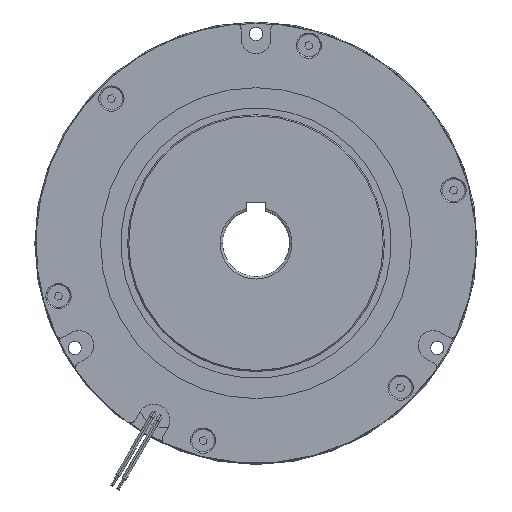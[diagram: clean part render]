
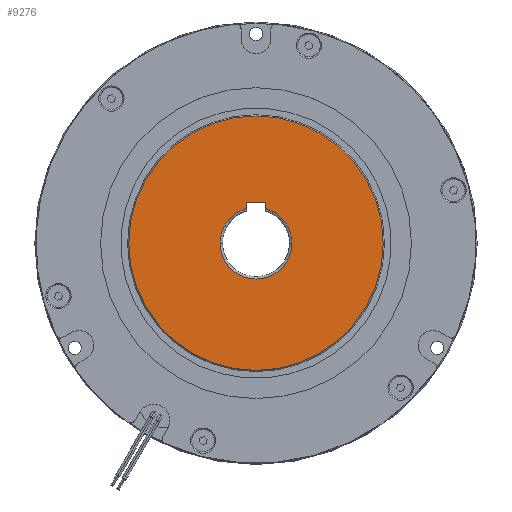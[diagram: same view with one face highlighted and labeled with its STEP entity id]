
A CAD part, top view. The second image highlights one B-rep face of the part: STEP entity #9276.
In plain terms, the highlighted planar face has unit normal (0, 0, 1).
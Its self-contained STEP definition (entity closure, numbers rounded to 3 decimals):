
#83 = VERTEX_POINT ( 'NONE', #8573 ) ;
#84 = VERTEX_POINT ( 'NONE', #8568 ) ;
#424 = CARTESIAN_POINT ( 'NONE',  ( 0., 0., 31.6 ) ) ;
#425 = DIRECTION ( 'NONE',  ( 0., 0., 1. ) ) ;
#426 = DIRECTION ( 'NONE',  ( 1., 0., 0. ) ) ;
#491 = CARTESIAN_POINT ( 'NONE',  ( 0., 0., 31.6 ) ) ;
#492 = DIRECTION ( 'NONE',  ( 0., 0., -1. ) ) ;
#493 = DIRECTION ( 'NONE',  ( 1., 0., 0. ) ) ;
#510 = CARTESIAN_POINT ( 'NONE',  ( -4., 17., 31.6 ) ) ;
#514 = CARTESIAN_POINT ( 'NONE',  ( 4., 17., 31.6 ) ) ;
#515 = DIRECTION ( 'NONE',  ( 0., 1., 0. ) ) ;
#518 = DIRECTION ( 'NONE',  ( -1., 0., 0. ) ) ;
#527 = CARTESIAN_POINT ( 'NONE',  ( -4., 17., 31.6 ) ) ;
#528 = DIRECTION ( 'NONE',  ( 0., -1., 0. ) ) ;
#859 = AXIS2_PLACEMENT_3D ( 'NONE', #16886, #16887, #16888 ) ;
#1002 = AXIS2_PLACEMENT_3D ( 'NONE', #424, #425, #426 ) ;
#1023 = AXIS2_PLACEMENT_3D ( 'NONE', #491, #492, #493 ) ;
#1533 = CARTESIAN_POINT ( 'NONE',  ( -15., 0., 31.6 ) ) ;
#1557 = CARTESIAN_POINT ( 'NONE',  ( -4., 14.457, 31.6 ) ) ;
#2782 = EDGE_LOOP ( 'NONE', ( #10549, #10550 ) ) ;
#2787 = EDGE_LOOP ( 'NONE', ( #10543, #10544, #10545, #10546, #10547, #10548 ) ) ;
#4036 = AXIS2_PLACEMENT_3D ( 'NONE', #7382, #7383, #7384 ) ;
#4379 = AXIS2_PLACEMENT_3D ( 'NONE', #17623, #17624, #17625 ) ;
#4401 = AXIS2_PLACEMENT_3D ( 'NONE', #16760, #16761, #16762 ) ;
#6085 = CIRCLE ( 'NONE', #4379, 53.2 ) ;
#6155 = CIRCLE ( 'NONE', #4401, 15. ) ;
#6218 = CIRCLE ( 'NONE', #859, 15. ) ;
#6607 = CIRCLE ( 'NONE', #1002, 53.2 ) ;
#6887 = FACE_BOUND ( 'NONE', #2787, .T. ) ;
#6891 = FACE_OUTER_BOUND ( 'NONE', #2782, .T. ) ;
#7375 = PLANE ( 'NONE',  #4036 ) ;
#7382 = CARTESIAN_POINT ( 'NONE',  ( 0., 0., 31.6 ) ) ;
#7383 = DIRECTION ( 'NONE',  ( 0., 0., 1. ) ) ;
#7384 = DIRECTION ( 'NONE',  ( 1., 0., 0. ) ) ;
#7867 = VERTEX_POINT ( 'NONE', #1533 ) ;
#7921 = VERTEX_POINT ( 'NONE', #1557 ) ;
#8568 = CARTESIAN_POINT ( 'NONE',  ( 53.2, 0., 31.6 ) ) ;
#8573 = CARTESIAN_POINT ( 'NONE',  ( -53.2, 0., 31.6 ) ) ;
#9276 = ADVANCED_FACE ( 'NONE', ( #6887, #6891 ), #7375, .T. ) ;
#10213 = VERTEX_POINT ( 'NONE', #17191 ) ;
#10543 = ORIENTED_EDGE ( 'NONE', *, *, #11634, .F. ) ;
#10544 = ORIENTED_EDGE ( 'NONE', *, *, #11629, .T. ) ;
#10545 = ORIENTED_EDGE ( 'NONE', *, *, #11297, .T. ) ;
#10546 = ORIENTED_EDGE ( 'NONE', *, *, #11342, .T. ) ;
#10547 = ORIENTED_EDGE ( 'NONE', *, *, #11641, .F. ) ;
#10548 = ORIENTED_EDGE ( 'NONE', *, *, #11636, .F. ) ;
#10549 = ORIENTED_EDGE ( 'NONE', *, *, #11608, .T. ) ;
#10550 = ORIENTED_EDGE ( 'NONE', *, *, #11252, .T. ) ;
#11116 = VERTEX_POINT ( 'NONE', #17312 ) ;
#11252 = EDGE_CURVE ( 'NONE', #84, #83, #6085, .T. ) ;
#11297 = EDGE_CURVE ( 'NONE', #10213, #7867, #6155, .T. ) ;
#11342 = EDGE_CURVE ( 'NONE', #7867, #7921, #6218, .T. ) ;
#11608 = EDGE_CURVE ( 'NONE', #83, #84, #6607, .T. ) ;
#11629 = EDGE_CURVE ( 'NONE', #15378, #10213, #15399, .T. ) ;
#11634 = EDGE_CURVE ( 'NONE', #15378, #11116, #15400, .T. ) ;
#11636 = EDGE_CURVE ( 'NONE', #11116, #15363, #15401, .T. ) ;
#11641 = EDGE_CURVE ( 'NONE', #15363, #7921, #15416, .T. ) ;
#15363 = VERTEX_POINT ( 'NONE', #19535 ) ;
#15378 = VERTEX_POINT ( 'NONE', #19550 ) ;
#15399 = CIRCLE ( 'NONE', #1023, 15. ) ;
#15400 = LINE ( 'NONE', #514, #15405 ) ;
#15401 = LINE ( 'NONE', #510, #15409 ) ;
#15405 = VECTOR ( 'NONE', #515, 1000. ) ;
#15409 = VECTOR ( 'NONE', #518, 1000. ) ;
#15416 = LINE ( 'NONE', #527, #15419 ) ;
#15419 = VECTOR ( 'NONE', #528, 1000. ) ;
#16760 = CARTESIAN_POINT ( 'NONE',  ( 0., 0., 31.6 ) ) ;
#16761 = DIRECTION ( 'NONE',  ( 0., 0., -1. ) ) ;
#16762 = DIRECTION ( 'NONE',  ( 1., 0., 0. ) ) ;
#16886 = CARTESIAN_POINT ( 'NONE',  ( 0., 0., 31.6 ) ) ;
#16887 = DIRECTION ( 'NONE',  ( 0., 0., -1. ) ) ;
#16888 = DIRECTION ( 'NONE',  ( 1., 0., 0. ) ) ;
#17191 = CARTESIAN_POINT ( 'NONE',  ( 15., 0., 31.6 ) ) ;
#17312 = CARTESIAN_POINT ( 'NONE',  ( 4., 17., 31.6 ) ) ;
#17623 = CARTESIAN_POINT ( 'NONE',  ( 0., 0., 31.6 ) ) ;
#17624 = DIRECTION ( 'NONE',  ( 0., 0., 1. ) ) ;
#17625 = DIRECTION ( 'NONE',  ( 1., 0., 0. ) ) ;
#19535 = CARTESIAN_POINT ( 'NONE',  ( -4., 17., 31.6 ) ) ;
#19550 = CARTESIAN_POINT ( 'NONE',  ( 4., 14.457, 31.6 ) ) ;
